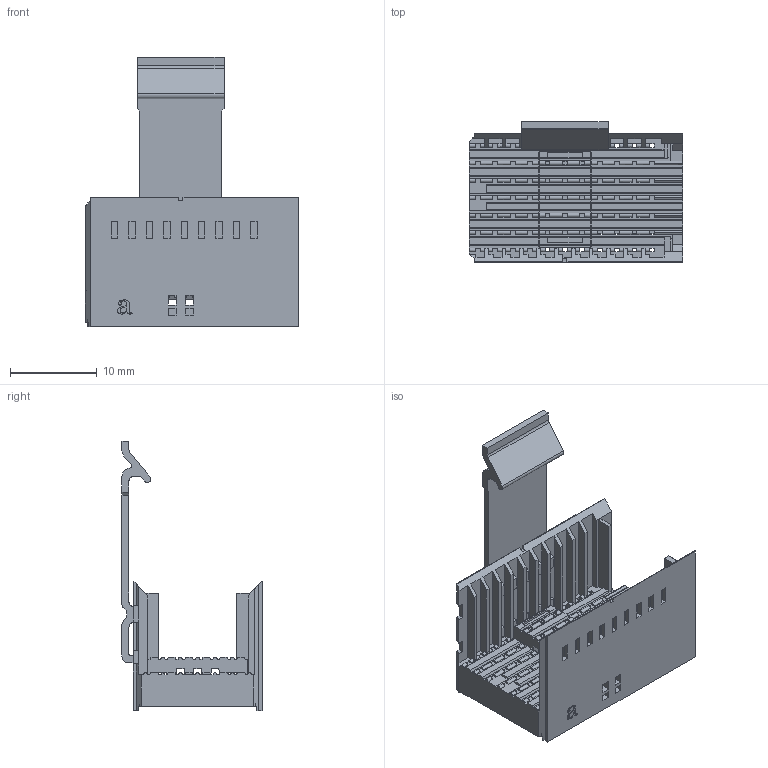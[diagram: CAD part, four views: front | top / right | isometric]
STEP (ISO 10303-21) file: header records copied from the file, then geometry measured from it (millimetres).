
FILE_DESCRIPTION (( 'STEP AP214' ), '1' );
FILE_NAME ('9111-77C77YRU.STEP', '2016-10-07T03:57:57', ( 'admin' ), ( '' ), 'SwSTEP 2.0', 'SolidWorks 2011', '' );
FILE_SCHEMA (( 'AUTOMOTIVE_DESIGN' ));
Length unit declared in the file: millimetre
Products named in the file (4): 9111-77C77HOUSING2_Default; 9111-77C77HOUSING3_Default; 9111-77C77HOUSING_Default; 9111-77C77YRU
Assembly tree (3 placements, depth 2):
  9111-77C77YRU
    9111-77C77HOUSING_Default
    9111-77C77HOUSING2_Default
    9111-77C77HOUSING3_Default
Bounding box: 24.55 x 16.1 x 31 mm (x, y, z)
Volume: 1916.9 mm3; surface area: 4145.4 mm2
Topology: 3 solids, 3 shells, 1478 faces, 4232 edges, 2731 vertices
Faces by surface type: plane 1404, cylinder 52, bspline 22
Entity records: 51484 total; most frequent: CARTESIAN_POINT 13516, ORIENTED_EDGE 8464, DIRECTION 6822, EDGE_CURVE 4232, LINE 3640, VECTOR 3640, VERTEX_POINT 2731, AXIS2_PLACEMENT_3D 1591
